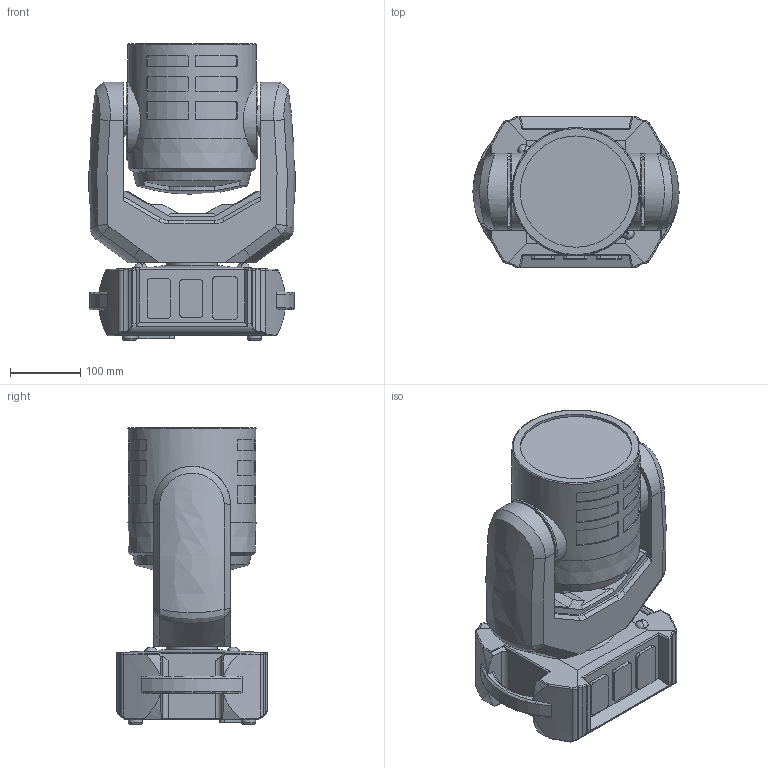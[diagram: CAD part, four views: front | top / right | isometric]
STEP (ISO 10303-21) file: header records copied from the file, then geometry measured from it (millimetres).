
FILE_DESCRIPTION(/* description */ ('Unknown'),/* implementation_level */ '2;1');
FILE_NAME(/* name */ '3D Robin Arianne 2',/* time_stamp */ '2026-05-14T14:27:25+02:00',/* author */ ('Unknown'),/* organization */ ('Unknown'),/* preprocessor_version */ 'ST-DEVELOPER v20',/* originating_system */ 'Solid Edge',/* authorisation */ 'Unknown');
FILE_SCHEMA (('AUTOMOTIVE_DESIGN {1 0 10303 214 3 1 1}'));
Length unit declared in the file: millimetre
Products named in the file (4): 3D Robin Arianne 2; Arianne 2_base; Arianne 2_arm; Arianne 2_head
Assembly tree (3 placements, depth 2):
  3D Robin Arianne 2
    Arianne 2_base
    Arianne 2_arm
    Arianne 2_head
Bounding box: 292.91 x 215 x 421 mm (x, y, z)
Volume: 13163585.7 mm3; surface area: 571206.2 mm2
Topology: 3 solids, 3 shells, 463 faces, 1207 edges, 772 vertices
Faces by surface type: plane 183, cylinder 155, bspline 89, torus 25, cone 8, sphere 3
Full cylindrical faces by diameter (mm): 20 x4, 44 x2, 50 x1, 72 x1, 109 x2, 158 x1, 182 x1
Entity records: 16220 total; most frequent: CARTESIAN_POINT 5431, ORIENTED_EDGE 2334, DIRECTION 2053, EDGE_CURVE 1167, VERTEX_POINT 764, AXIS2_PLACEMENT_3D 764, LINE 525, VECTOR 525
